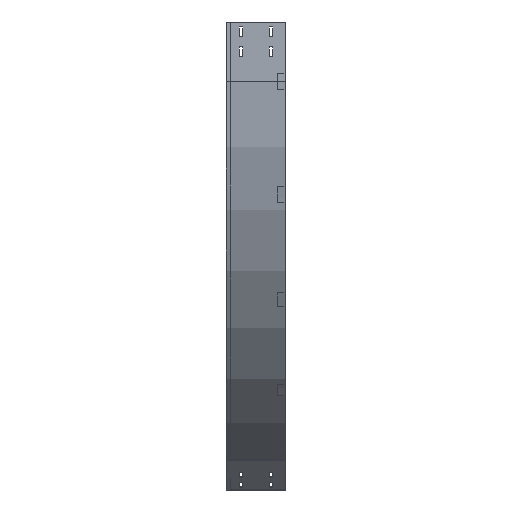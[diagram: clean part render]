
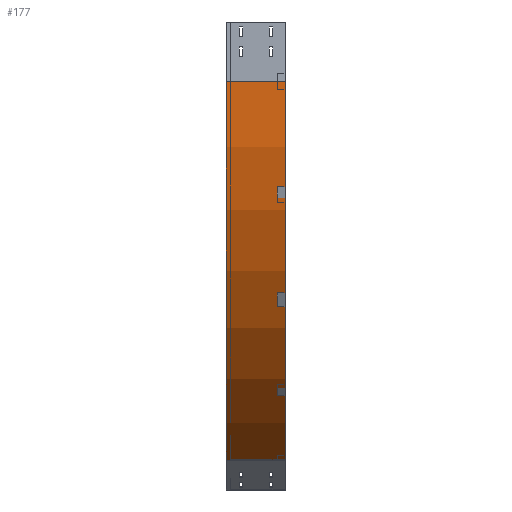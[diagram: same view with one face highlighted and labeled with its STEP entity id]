
A CAD part, left-side view. The second image highlights one B-rep face of the part: STEP entity #177.
In plain terms, the highlighted cylindrical face has radius 1100 mm (diameter 2200 mm), a partial arc.
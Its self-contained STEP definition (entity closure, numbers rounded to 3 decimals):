
#130 = CARTESIAN_POINT ( 'NONE',  ( 0., 0., -150. ) ) ;
#177 = ADVANCED_FACE ( 'NONE', ( #3314 ), #956, .T. ) ;
#219 = LINE ( 'NONE', #1473, #828 ) ;
#319 = EDGE_CURVE ( 'NONE', #375, #2917, #2444, .T. ) ;
#349 = DIRECTION ( 'NONE',  ( 0., 0., -1. ) ) ;
#373 = CARTESIAN_POINT ( 'NONE',  ( 1100., 0., -150. ) ) ;
#375 = VERTEX_POINT ( 'NONE', #3754 ) ;
#395 = AXIS2_PLACEMENT_3D ( 'NONE', #1035, #2211, #1629 ) ;
#472 = AXIS2_PLACEMENT_3D ( 'NONE', #373, #921, #349 ) ;
#613 = ORIENTED_EDGE ( 'NONE', *, *, #3122, .T. ) ;
#688 = ORIENTED_EDGE ( 'NONE', *, *, #3464, .F. ) ;
#786 = EDGE_CURVE ( 'NONE', #375, #3200, #2852, .T. ) ;
#828 = VECTOR ( 'NONE', #2969, 1000. ) ;
#921 = DIRECTION ( 'NONE',  ( 0., -1., 0. ) ) ;
#956 = CYLINDRICAL_SURFACE ( 'NONE', #472, 1100. ) ;
#1035 = CARTESIAN_POINT ( 'NONE',  ( 1100., 0., -150. ) ) ;
#1045 = VERTEX_POINT ( 'NONE', #2119 ) ;
#1384 = CIRCLE ( 'NONE', #395, 1100. ) ;
#1473 = CARTESIAN_POINT ( 'NONE',  ( 550., 0., -1102.628 ) ) ;
#1591 = DIRECTION ( 'NONE',  ( -1., 0., 0. ) ) ;
#1629 = DIRECTION ( 'NONE',  ( -1., 0., 0. ) ) ;
#1754 = EDGE_LOOP ( 'NONE', ( #688, #1825, #1855, #613 ) ) ;
#1825 = ORIENTED_EDGE ( 'NONE', *, *, #786, .F. ) ;
#1855 = ORIENTED_EDGE ( 'NONE', *, *, #319, .T. ) ;
#1935 = DIRECTION ( 'NONE',  ( 0., -1., 0. ) ) ;
#2119 = CARTESIAN_POINT ( 'NONE',  ( 550., 0., -1102.628 ) ) ;
#2211 = DIRECTION ( 'NONE',  ( 0., -1., 0. ) ) ;
#2256 = CARTESIAN_POINT ( 'NONE',  ( 550., 150., -1102.628 ) ) ;
#2444 = CIRCLE ( 'NONE', #3517, 1100. ) ;
#2593 = VECTOR ( 'NONE', #1935, 1000. ) ;
#2852 = LINE ( 'NONE', #130, #2593 ) ;
#2917 = VERTEX_POINT ( 'NONE', #2256 ) ;
#2969 = DIRECTION ( 'NONE',  ( 0., -1., 0. ) ) ;
#3061 = CARTESIAN_POINT ( 'NONE',  ( 1100., 150., -150. ) ) ;
#3122 = EDGE_CURVE ( 'NONE', #2917, #1045, #219, .T. ) ;
#3200 = VERTEX_POINT ( 'NONE', #3354 ) ;
#3314 = FACE_OUTER_BOUND ( 'NONE', #1754, .T. ) ;
#3354 = CARTESIAN_POINT ( 'NONE',  ( 0., 0., -150. ) ) ;
#3464 = EDGE_CURVE ( 'NONE', #3200, #1045, #1384, .T. ) ;
#3517 = AXIS2_PLACEMENT_3D ( 'NONE', #3061, #3718, #1591 ) ;
#3718 = DIRECTION ( 'NONE',  ( 0., -1., 0. ) ) ;
#3754 = CARTESIAN_POINT ( 'NONE',  ( 0., 150., -150. ) ) ;
